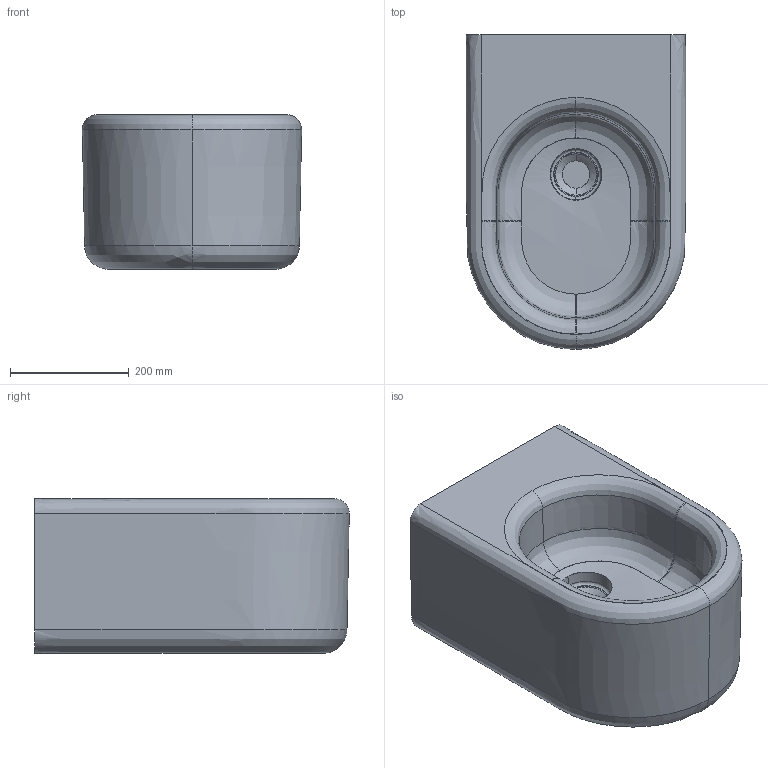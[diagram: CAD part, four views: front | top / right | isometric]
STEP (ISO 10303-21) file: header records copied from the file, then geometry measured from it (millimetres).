
FILE_DESCRIPTION(/* description */ (''),/* implementation_level */ '2;1');
FILE_NAME(/* name */ 'ITBS',/* time_stamp */ '2024-12-16T17:26:09+01:00',/* author */ (''),/* organization */ (''),/* preprocessor_version */ 'ST-DEVELOPER v16.5',/* originating_system */ 'Rhino 7.27',/* authorisation */ '');
FILE_SCHEMA (('CONFIG_CONTROL_DESIGN'));
Length unit declared in the file: millimetre
Products named in the file (1): Document
Bounding box: 369.1 x 529.55 x 260 mm (x, y, z)
Surface area: 853018.4 mm2 (no closed solid volume)
Topology: 0 solids, 2 shells, 47 faces, 111 edges, 67 vertices
Faces by surface type: bspline 39, plane 6, cylinder 2
Entity records: 25460 total; most frequent: CARTESIAN_POINT 24753, ORIENTED_EDGE 198, EDGE_CURVE 105, B_SPLINE_CURVE_WITH_KNOTS 63, VERTEX_POINT 59, EDGE_LOOP 49, ADVANCED_FACE 47, FACE_OUTER_BOUND 47
